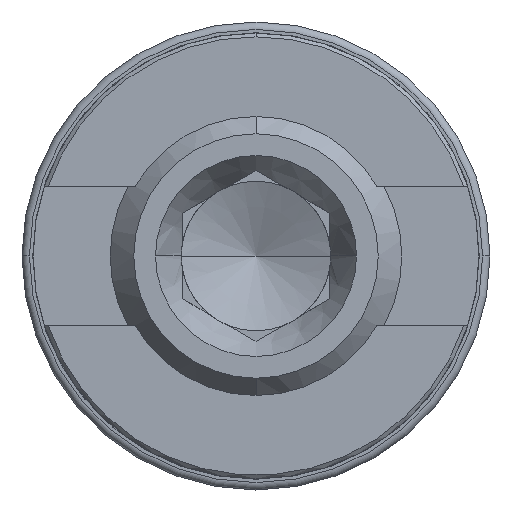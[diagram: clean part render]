
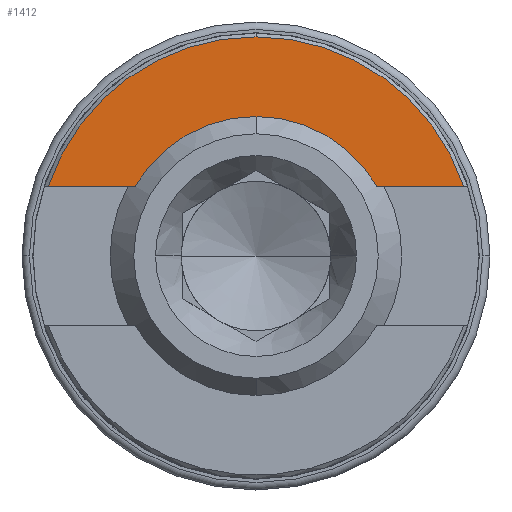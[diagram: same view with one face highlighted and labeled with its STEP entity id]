
A CAD part, front view. The second image highlights one B-rep face of the part: STEP entity #1412.
In plain terms, the highlighted planar face has unit normal (0, -1, 0).
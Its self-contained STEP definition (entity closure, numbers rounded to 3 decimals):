
#331 = ORIENTED_EDGE ( 'NONE', *, *, #6081, .F. ) ;
#432 = LINE ( 'NONE', #2103, #800 ) ;
#477 = ORIENTED_EDGE ( 'NONE', *, *, #5800, .F. ) ;
#669 = EDGE_CURVE ( 'NONE', #4269, #2224, #5419, .T. ) ;
#777 = ORIENTED_EDGE ( 'NONE', *, *, #6670, .F. ) ;
#793 = AXIS2_PLACEMENT_3D ( 'NONE', #7567, #7557, #7553 ) ;
#800 = VECTOR ( 'NONE', #1162, 1000. ) ;
#891 = PLANE ( 'NONE',  #1520 ) ;
#1162 = DIRECTION ( 'NONE',  ( -1., 0., 0. ) ) ;
#1412 = ADVANCED_FACE ( 'NONE', ( #5729 ), #891, .T. ) ;
#1520 = AXIS2_PLACEMENT_3D ( 'NONE', #3032, #2786, #3225 ) ;
#1524 = CARTESIAN_POINT ( 'NONE',  ( 4.128, 0., 2.375 ) ) ;
#1551 = ORIENTED_EDGE ( 'NONE', *, *, #669, .T. ) ;
#1609 = DIRECTION ( 'NONE',  ( 0., 0., -1. ) ) ;
#1690 = VERTEX_POINT ( 'NONE', #3099 ) ;
#1742 = VERTEX_POINT ( 'NONE', #7203 ) ;
#1854 = VERTEX_POINT ( 'NONE', #1524 ) ;
#1904 = CIRCLE ( 'NONE', #2193, 4.763 ) ;
#2077 = EDGE_CURVE ( 'NONE', #1690, #4269, #4438, .T. ) ;
#2103 = CARTESIAN_POINT ( 'NONE',  ( -7.607, 0., 2.375 ) ) ;
#2168 = DIRECTION ( 'NONE',  ( 0., 0., -1. ) ) ;
#2193 = AXIS2_PLACEMENT_3D ( 'NONE', #2354, #4899, #1609 ) ;
#2224 = VERTEX_POINT ( 'NONE', #7489 ) ;
#2354 = CARTESIAN_POINT ( 'NONE',  ( 0., 0., 0. ) ) ;
#2684 = CARTESIAN_POINT ( 'NONE',  ( 0., 0., 0. ) ) ;
#2758 = ORIENTED_EDGE ( 'NONE', *, *, #2077, .T. ) ;
#2786 = DIRECTION ( 'NONE',  ( 0., -1., 0. ) ) ;
#3032 = CARTESIAN_POINT ( 'NONE',  ( 7.607, 0., 0. ) ) ;
#3099 = CARTESIAN_POINT ( 'NONE',  ( 7.093, 0., 2.375 ) ) ;
#3225 = DIRECTION ( 'NONE',  ( 0., 0., -1. ) ) ;
#4221 = DIRECTION ( 'NONE',  ( -1., 0., 0. ) ) ;
#4248 = CARTESIAN_POINT ( 'NONE',  ( -7.607, 0., 2.375 ) ) ;
#4249 = DIRECTION ( 'NONE',  ( 0., -1., 0. ) ) ;
#4269 = VERTEX_POINT ( 'NONE', #5165 ) ;
#4438 = CIRCLE ( 'NONE', #7205, 7.48 ) ;
#4899 = DIRECTION ( 'NONE',  ( 0., -1., 0. ) ) ;
#5165 = CARTESIAN_POINT ( 'NONE',  ( 0., 0., 7.48 ) ) ;
#5347 = EDGE_LOOP ( 'NONE', ( #777, #2758, #1551, #477, #331 ) ) ;
#5419 = CIRCLE ( 'NONE', #793, 7.48 ) ;
#5729 = FACE_OUTER_BOUND ( 'NONE', #5347, .T. ) ;
#5800 = EDGE_CURVE ( 'NONE', #1742, #2224, #432, .T. ) ;
#6081 = EDGE_CURVE ( 'NONE', #1854, #1742, #1904, .T. ) ;
#6670 = EDGE_CURVE ( 'NONE', #1690, #1854, #7780, .T. ) ;
#7086 = VECTOR ( 'NONE', #4221, 1000. ) ;
#7203 = CARTESIAN_POINT ( 'NONE',  ( -4.128, 0., 2.375 ) ) ;
#7205 = AXIS2_PLACEMENT_3D ( 'NONE', #2684, #4249, #2168 ) ;
#7489 = CARTESIAN_POINT ( 'NONE',  ( -7.093, 0., 2.375 ) ) ;
#7553 = DIRECTION ( 'NONE',  ( 0., 0., -1. ) ) ;
#7557 = DIRECTION ( 'NONE',  ( 0., -1., 0. ) ) ;
#7567 = CARTESIAN_POINT ( 'NONE',  ( 0., 0., 0. ) ) ;
#7780 = LINE ( 'NONE', #4248, #7086 ) ;
